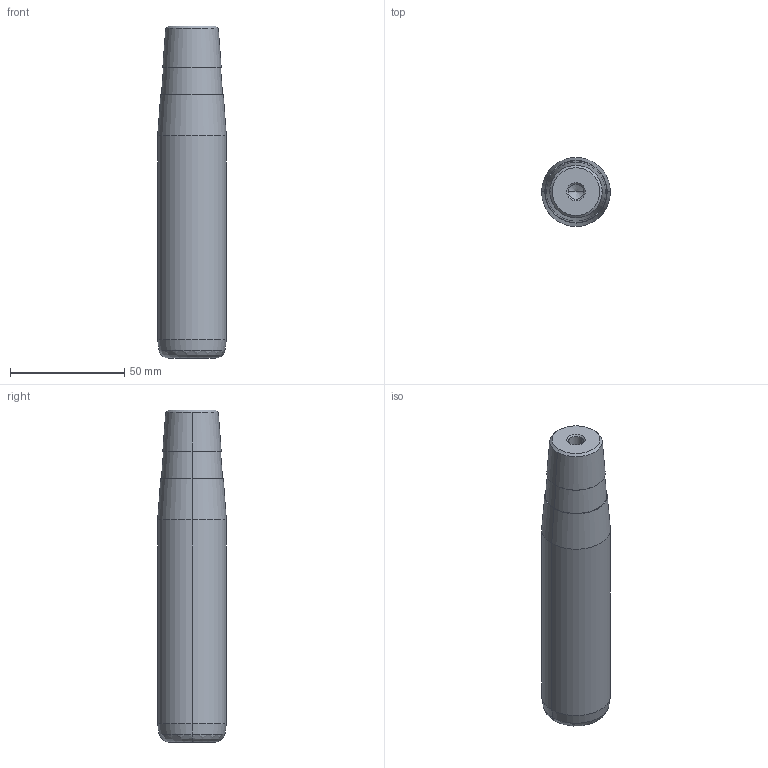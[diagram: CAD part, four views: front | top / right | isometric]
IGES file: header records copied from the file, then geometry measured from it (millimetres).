
Start section: START RECORD GO HERE.
Global section: file name: 722-30x112x145.igs; native system: DASSAULT SYSTEMES CATIA V5 R20 - www.3ds.com; preprocessor: CATIA Version 5 Release 20 ; author: Utente; organization: NB04-ASUS; date: 20210108.172143; units: millimetre
Bounding box: 30 x 30 x 145 mm (x, y, z)
Surface area: 15081.5 mm2 (no closed solid volume)
Topology: 0 solids, 0 shells, 32 faces, 128 edges, 124 vertices
Faces by surface type: revolution 30, plane 2
